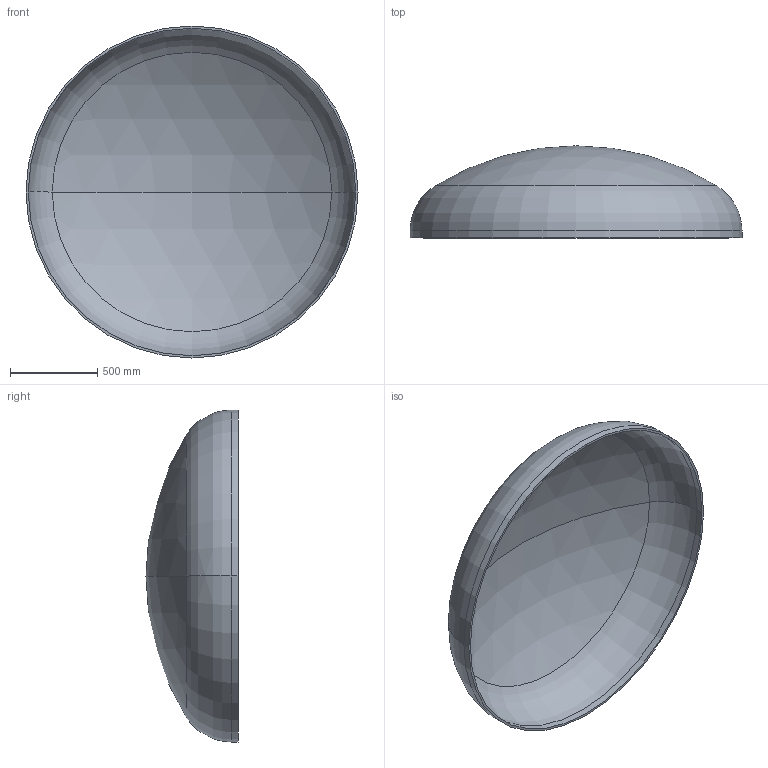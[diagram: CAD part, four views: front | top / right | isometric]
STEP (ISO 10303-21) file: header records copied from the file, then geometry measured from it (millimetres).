
FILE_DESCRIPTION (( 'STEP AP203' ), '1' );
FILE_NAME ('DIN 28013 Korbbogenform_-_Boden DIN 28013 - 1900 x 40 - I - s=13.step', '2016-07-01T12:55:29', ( '' ), ( '' ), 'SwSTEP 2.0', 'SolidWorks 2013', '' );
FILE_SCHEMA (( 'CONFIG_CONTROL_DESIGN' ));
Length unit declared in the file: millimetre
Products named in the file (1): DIN 28013 Korbbogenform_-_Boden DIN 28013 - 1900 x 40 - I - s=13
Bounding box: 1900 x 526.92 x 1900 mm (x, y, z)
Volume: 53584677.1 mm3; surface area: 8321213.6 mm2
Topology: 1 solids, 1 shells, 13 faces, 24 edges, 14 vertices
Faces by surface type: torus 4, cylinder 4, sphere 4, plane 1
Entity records: 407 total; most frequent: DIRECTION 72, CARTESIAN_POINT 52, ORIENTED_EDGE 48, AXIS2_PLACEMENT_3D 34, EDGE_CURVE 24, CIRCLE 20, VERTEX_POINT 14, EDGE_LOOP 14
